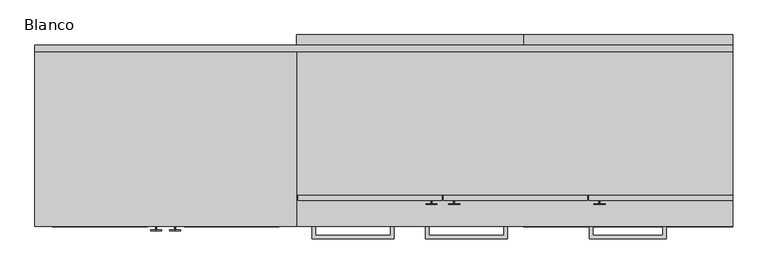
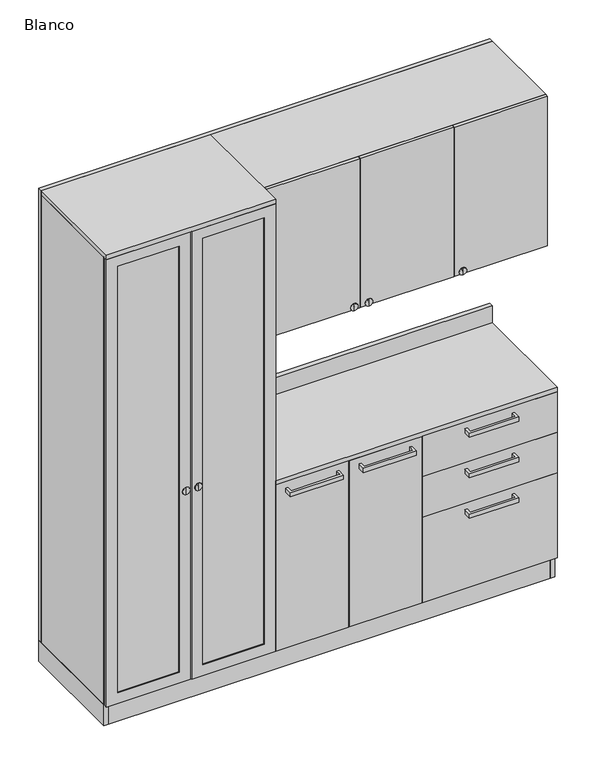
"""IFC4 building model written with IfcOpenShell, lengths in millimetres: furniture geometry, F06582_ES_Cocina-Modulable-Botanic.2019 : Blanco."""

from ifc_helpers import new_model, si_unit, point, frame, frame_2d, origin, origin_with_axes, place, context, project, spatial, polyline, circle_curve, trimmed, segment, composite_curve, outline, extrude, faceted_brep, source, transform, mapped, element, save
from ifc_brep_helpers import plane_surface, cylinder_surface, advanced_brep


def blanco_a21738ea(model_context):
    return source(origin(), model_context, "Body", "SolidModel", [
        advanced_brep(
        [(144.7599318, -220.0, 1001.3145393), (144.7599318, -220.0, 998.6854607), (144.7599318, -210.0, 998.6854607), (144.7599318, -210.0, 1001.3145393), (144.7599318, -210.0, 1000.0), (144.7599318, -221.9548714, 1000.0), (144.7599318, -221.9548714, 983.6854607), (144.7599318, -221.9548714, 1016.3145393), (144.7599318, -220.0, 983.6854607), (144.7599318, -220.0, 1016.3145393)],
        [
            (0, 1, circle_curve(frame((144.7599318, -220.0, 1000.0), z_axis=(0.0, 1.0, 0.0), x_axis=(0.0, 0.0, -1.0)), 1.3145393)),
            (1, 2),
            (2, 3, circle_curve(frame((144.7599318, -210.0, 1000.0), z_axis=(0.0, -1.0, 0.0), x_axis=(0.0, 0.0, -1.0)), 1.3145393)),
            (3, 0),
            (1, 0, circle_curve(frame((144.7599318, -220.0, 1000.0), z_axis=(0.0, 1.0, 0.0), x_axis=(0.0, 0.0, -1.0)), 1.3145393)),
            (3, 2, circle_curve(frame((144.7599318, -210.0, 1000.0), z_axis=(0.0, -1.0, 0.0), x_axis=(0.0, 0.0, -1.0)), 1.3145393)),
            (2, 4),
            (4, 3),
            (5, 6),
            (6, 7, circle_curve(frame((144.7599318, -221.9548714, 1000.0), z_axis=(0.0, -1.0, 0.0), x_axis=(0.0, 0.0, -1.0)), 16.3145393)),
            (7, 5),
            (7, 6, circle_curve(frame((144.7599318, -221.9548714, 1000.0), z_axis=(0.0, -1.0, 0.0), x_axis=(0.0, 0.0, -1.0)), 16.3145393)),
            (6, 8),
            (8, 9, circle_curve(frame((144.7599318, -220.0, 1000.0), z_axis=(0.0, -1.0, 0.0), x_axis=(0.0, 0.0, -1.0)), 16.3145393)),
            (9, 7),
            (9, 8, circle_curve(frame((144.7599318, -220.0, 1000.0), z_axis=(0.0, -1.0, 0.0), x_axis=(0.0, 0.0, -1.0)), 16.3145393)),
            (8, 1),
            (0, 9),
        ],
        [
            cylinder_surface(frame((144.7599318, -210.0, 1000.0), z_axis=(0.0, -1.0, 0.0), x_axis=(0.0, 0.0, -1.0)), 1.3145393),
            plane_surface(frame((144.7599318, -210.0, 1000.0), z_axis=(0.0, 1.0, 0.0), x_axis=(0.0, 0.0, -1.0))),
            plane_surface(frame((144.7599318, -221.9548714, 1000.0), z_axis=(0.0, -1.0, 0.0), x_axis=(0.0, 0.0, -1.0))),
            cylinder_surface(frame((144.7599318, -210.0, 1000.0), z_axis=(0.0, -1.0, 0.0), x_axis=(0.0, 0.0, -1.0)), 16.3145393),
            plane_surface(frame((144.7599318, -220.0, 1000.0), z_axis=(0.0, 1.0, 0.0), x_axis=(0.0, 0.0, -1.0))),
        ],
        [
            (0, [[1, 2, 3, 4]]),
            (0, [[5, -4, 6, -2]]),
            (1, [[-3, 7, 8]]),
            (1, [[-6, -8, -7]]),
            (2, [[9, 10, 11]]),
            (2, [[-11, 12, -9]]),
            (3, [[-10, 13, 14, 15]]),
            (3, [[-12, -15, 16, -13]]),
            (4, [[-14, 17, -1, 18]]),
            (4, [[-16, -18, -5, -17]]),
        ],
    ),
        advanced_brep(
        [(90.2400682, -220.0, 1001.3145393), (90.2400682, -220.0, 998.6854607), (90.2400682, -210.0, 998.6854607), (90.2400682, -210.0, 1001.3145393), (90.2400682, -210.0, 1000.0), (90.2400682, -221.9548714, 1000.0), (90.2400682, -221.9548714, 983.6854607), (90.2400682, -221.9548714, 1016.3145393), (90.2400682, -220.0, 983.6854607), (90.2400682, -220.0, 1016.3145393)],
        [
            (0, 1, circle_curve(frame((90.2400682, -220.0, 1000.0), z_axis=(0.0, 1.0, 0.0), x_axis=(0.0, 0.0, -1.0)), 1.3145393)),
            (1, 2),
            (2, 3, circle_curve(frame((90.2400682, -210.0, 1000.0), z_axis=(0.0, -1.0, 0.0), x_axis=(0.0, 0.0, -1.0)), 1.3145393)),
            (3, 0),
            (1, 0, circle_curve(frame((90.2400682, -220.0, 1000.0), z_axis=(0.0, 1.0, 0.0), x_axis=(0.0, 0.0, -1.0)), 1.3145393)),
            (3, 2, circle_curve(frame((90.2400682, -210.0, 1000.0), z_axis=(0.0, -1.0, 0.0), x_axis=(0.0, 0.0, -1.0)), 1.3145393)),
            (2, 4),
            (4, 3),
            (5, 6),
            (6, 7, circle_curve(frame((90.2400682, -221.9548714, 1000.0), z_axis=(0.0, -1.0, 0.0), x_axis=(0.0, 0.0, -1.0)), 16.3145393)),
            (7, 5),
            (7, 6, circle_curve(frame((90.2400682, -221.9548714, 1000.0), z_axis=(0.0, -1.0, 0.0), x_axis=(0.0, 0.0, -1.0)), 16.3145393)),
            (6, 8),
            (8, 9, circle_curve(frame((90.2400682, -220.0, 1000.0), z_axis=(0.0, -1.0, 0.0), x_axis=(0.0, 0.0, -1.0)), 16.3145393)),
            (9, 7),
            (9, 8, circle_curve(frame((90.2400682, -220.0, 1000.0), z_axis=(0.0, -1.0, 0.0), x_axis=(0.0, 0.0, -1.0)), 16.3145393)),
            (8, 1),
            (0, 9),
        ],
        [
            cylinder_surface(frame((90.2400682, -210.0, 1000.0), z_axis=(0.0, -1.0, 0.0), x_axis=(0.0, 0.0, -1.0)), 1.3145393),
            plane_surface(frame((90.2400682, -210.0, 1000.0), z_axis=(0.0, 1.0, 0.0), x_axis=(0.0, 0.0, -1.0))),
            plane_surface(frame((90.2400682, -221.9548714, 1000.0), z_axis=(0.0, -1.0, 0.0), x_axis=(0.0, 0.0, -1.0))),
            cylinder_surface(frame((90.2400682, -210.0, 1000.0), z_axis=(0.0, -1.0, 0.0), x_axis=(0.0, 0.0, -1.0)), 16.3145393),
            plane_surface(frame((90.2400682, -220.0, 1000.0), z_axis=(0.0, 1.0, 0.0), x_axis=(0.0, 0.0, -1.0))),
        ],
        [
            (0, [[1, 2, 3, 4]]),
            (0, [[5, -4, 6, -2]]),
            (1, [[-3, 7, 8]]),
            (1, [[-6, -8, -7]]),
            (2, [[9, 10, 11]]),
            (2, [[-11, 12, -9]]),
            (3, [[-10, 13, 14, 15]]),
            (3, [[-12, -15, 16, -13]]),
            (4, [[-14, 17, -1, 18]]),
            (4, [[-16, -18, -5, -17]]),
        ],
    ),
        advanced_brep(
        [(1360.8333333, -145.0, 1541.3145393), (1360.8333333, -145.0, 1538.6854607), (1360.8333333, -135.0, 1538.6854607), (1360.8333333, -135.0, 1541.3145393), (1360.8333333, -135.0, 1540.0), (1360.8333333, -146.9548714, 1540.0), (1360.8333333, -146.9548714, 1523.6854607), (1360.8333333, -146.9548714, 1556.3145393), (1360.8333333, -145.0, 1523.6854607), (1360.8333333, -145.0, 1556.3145393)],
        [
            (0, 1, circle_curve(frame((1360.8333333, -145.0, 1540.0), z_axis=(0.0, 1.0, 0.0), x_axis=(0.0, 0.0, -1.0)), 1.3145393)),
            (1, 2),
            (2, 3, circle_curve(frame((1360.8333333, -135.0, 1540.0), z_axis=(0.0, -1.0, 0.0), x_axis=(0.0, 0.0, -1.0)), 1.3145393)),
            (3, 0),
            (1, 0, circle_curve(frame((1360.8333333, -145.0, 1540.0), z_axis=(0.0, 1.0, 0.0), x_axis=(0.0, 0.0, -1.0)), 1.3145393)),
            (3, 2, circle_curve(frame((1360.8333333, -135.0, 1540.0), z_axis=(0.0, -1.0, 0.0), x_axis=(0.0, 0.0, -1.0)), 1.3145393)),
            (2, 4),
            (4, 3),
            (5, 6),
            (6, 7, circle_curve(frame((1360.8333333, -146.9548714, 1540.0), z_axis=(0.0, -1.0, 0.0), x_axis=(0.0, 0.0, -1.0)), 16.3145393)),
            (7, 5),
            (7, 6, circle_curve(frame((1360.8333333, -146.9548714, 1540.0), z_axis=(0.0, -1.0, 0.0), x_axis=(0.0, 0.0, -1.0)), 16.3145393)),
            (6, 8),
            (8, 9, circle_curve(frame((1360.8333333, -145.0, 1540.0), z_axis=(0.0, -1.0, 0.0), x_axis=(0.0, 0.0, -1.0)), 16.3145393)),
            (9, 7),
            (9, 8, circle_curve(frame((1360.8333333, -145.0, 1540.0), z_axis=(0.0, -1.0, 0.0), x_axis=(0.0, 0.0, -1.0)), 16.3145393)),
            (8, 1),
            (0, 9),
        ],
        [
            cylinder_surface(frame((1360.8333333, -135.0, 1540.0), z_axis=(0.0, -1.0, 0.0), x_axis=(0.0, 0.0, -1.0)), 1.3145393),
            plane_surface(frame((1360.8333333, -135.0, 1540.0), z_axis=(0.0, 1.0, 0.0), x_axis=(0.0, 0.0, -1.0))),
            plane_surface(frame((1360.8333333, -146.9548714, 1540.0), z_axis=(0.0, -1.0, 0.0), x_axis=(0.0, 0.0, -1.0))),
            cylinder_surface(frame((1360.8333333, -135.0, 1540.0), z_axis=(0.0, -1.0, 0.0), x_axis=(0.0, 0.0, -1.0)), 16.3145393),
            plane_surface(frame((1360.8333333, -145.0, 1540.0), z_axis=(0.0, 1.0, 0.0), x_axis=(0.0, 0.0, -1.0))),
        ],
        [
            (0, [[1, 2, 3, 4]]),
            (0, [[5, -4, 6, -2]]),
            (1, [[-3, 7, 8]]),
            (1, [[-6, -8, -7]]),
            (2, [[9, 10, 11]]),
            (2, [[-11, 12, -9]]),
            (3, [[-10, 13, 14, 15]]),
            (3, [[-12, -15, 16, -13]]),
            (4, [[-14, 17, -1, 18]]),
            (4, [[-16, -18, -5, -17]]),
        ],
    ),
        advanced_brep(
        [(944.1666667, -145.0, 1541.3145393), (944.1666667, -145.0, 1538.6854607), (944.1666667, -135.0, 1538.6854607), (944.1666667, -135.0, 1541.3145393), (944.1666667, -135.0, 1540.0), (944.1666667, -146.9548714, 1540.0), (944.1666667, -146.9548714, 1523.6854607), (944.1666667, -146.9548714, 1556.3145393), (944.1666667, -145.0, 1523.6854607), (944.1666667, -145.0, 1556.3145393)],
        [
            (0, 1, circle_curve(frame((944.1666667, -145.0, 1540.0), z_axis=(0.0, 1.0, 0.0), x_axis=(0.0, 0.0, -1.0)), 1.3145393)),
            (1, 2),
            (2, 3, circle_curve(frame((944.1666667, -135.0, 1540.0), z_axis=(0.0, -1.0, 0.0), x_axis=(0.0, 0.0, -1.0)), 1.3145393)),
            (3, 0),
            (1, 0, circle_curve(frame((944.1666667, -145.0, 1540.0), z_axis=(0.0, 1.0, 0.0), x_axis=(0.0, 0.0, -1.0)), 1.3145393)),
            (3, 2, circle_curve(frame((944.1666667, -135.0, 1540.0), z_axis=(0.0, -1.0, 0.0), x_axis=(0.0, 0.0, -1.0)), 1.3145393)),
            (2, 4),
            (4, 3),
            (5, 6),
            (6, 7, circle_curve(frame((944.1666667, -146.9548714, 1540.0), z_axis=(0.0, -1.0, 0.0), x_axis=(0.0, 0.0, -1.0)), 16.3145393)),
            (7, 5),
            (7, 6, circle_curve(frame((944.1666667, -146.9548714, 1540.0), z_axis=(0.0, -1.0, 0.0), x_axis=(0.0, 0.0, -1.0)), 16.3145393)),
            (6, 8),
            (8, 9, circle_curve(frame((944.1666667, -145.0, 1540.0), z_axis=(0.0, -1.0, 0.0), x_axis=(0.0, 0.0, -1.0)), 16.3145393)),
            (9, 7),
            (9, 8, circle_curve(frame((944.1666667, -145.0, 1540.0), z_axis=(0.0, -1.0, 0.0), x_axis=(0.0, 0.0, -1.0)), 16.3145393)),
            (8, 1),
            (0, 9),
        ],
        [
            cylinder_surface(frame((944.1666667, -135.0, 1540.0), z_axis=(0.0, -1.0, 0.0), x_axis=(0.0, 0.0, -1.0)), 1.3145393),
            plane_surface(frame((944.1666667, -135.0, 1540.0), z_axis=(0.0, 1.0, 0.0), x_axis=(0.0, 0.0, -1.0))),
            plane_surface(frame((944.1666667, -146.9548714, 1540.0), z_axis=(0.0, -1.0, 0.0), x_axis=(0.0, 0.0, -1.0))),
            cylinder_surface(frame((944.1666667, -135.0, 1540.0), z_axis=(0.0, -1.0, 0.0), x_axis=(0.0, 0.0, -1.0)), 16.3145393),
            plane_surface(frame((944.1666667, -145.0, 1540.0), z_axis=(0.0, 1.0, 0.0), x_axis=(0.0, 0.0, -1.0))),
        ],
        [
            (0, [[1, 2, 3, 4]]),
            (0, [[5, -4, 6, -2]]),
            (1, [[-3, 7, 8]]),
            (1, [[-6, -8, -7]]),
            (2, [[9, 10, 11]]),
            (2, [[-11, 12, -9]]),
            (3, [[-10, 13, 14, 15]]),
            (3, [[-12, -15, 16, -13]]),
            (4, [[-14, 17, -1, 18]]),
            (4, [[-16, -18, -5, -17]]),
        ],
    ),
        advanced_brep(
        [(879.1666667, -145.0, 1541.3145393), (879.1666667, -145.0, 1538.6854607), (879.1666667, -135.0, 1538.6854607), (879.1666667, -135.0, 1541.3145393), (879.1666667, -135.0, 1540.0), (879.1666667, -146.9548714, 1540.0), (879.1666667, -146.9548714, 1523.6854607), (879.1666667, -146.9548714, 1556.3145393), (879.1666667, -145.0, 1523.6854607), (879.1666667, -145.0, 1556.3145393)],
        [
            (0, 1, circle_curve(frame((879.1666667, -145.0, 1540.0), z_axis=(0.0, 1.0, 0.0), x_axis=(0.0, 0.0, -1.0)), 1.3145393)),
            (1, 2),
            (2, 3, circle_curve(frame((879.1666667, -135.0, 1540.0), z_axis=(0.0, -1.0, 0.0), x_axis=(0.0, 0.0, -1.0)), 1.3145393)),
            (3, 0),
            (1, 0, circle_curve(frame((879.1666667, -145.0, 1540.0), z_axis=(0.0, 1.0, 0.0), x_axis=(0.0, 0.0, -1.0)), 1.3145393)),
            (3, 2, circle_curve(frame((879.1666667, -135.0, 1540.0), z_axis=(0.0, -1.0, 0.0), x_axis=(0.0, 0.0, -1.0)), 1.3145393)),
            (2, 4),
            (4, 3),
            (5, 6),
            (6, 7, circle_curve(frame((879.1666667, -146.9548714, 1540.0), z_axis=(0.0, -1.0, 0.0), x_axis=(0.0, 0.0, -1.0)), 16.3145393)),
            (7, 5),
            (7, 6, circle_curve(frame((879.1666667, -146.9548714, 1540.0), z_axis=(0.0, -1.0, 0.0), x_axis=(0.0, 0.0, -1.0)), 16.3145393)),
            (6, 8),
            (8, 9, circle_curve(frame((879.1666667, -145.0, 1540.0), z_axis=(0.0, -1.0, 0.0), x_axis=(0.0, 0.0, -1.0)), 16.3145393)),
            (9, 7),
            (9, 8, circle_curve(frame((879.1666667, -145.0, 1540.0), z_axis=(0.0, -1.0, 0.0), x_axis=(0.0, 0.0, -1.0)), 16.3145393)),
            (8, 1),
            (0, 9),
        ],
        [
            cylinder_surface(frame((879.1666667, -135.0, 1540.0), z_axis=(0.0, -1.0, 0.0), x_axis=(0.0, 0.0, -1.0)), 1.3145393),
            plane_surface(frame((879.1666667, -135.0, 1540.0), z_axis=(0.0, 1.0, 0.0), x_axis=(0.0, 0.0, -1.0))),
            plane_surface(frame((879.1666667, -146.9548714, 1540.0), z_axis=(0.0, -1.0, 0.0), x_axis=(0.0, 0.0, -1.0))),
            cylinder_surface(frame((879.1666667, -135.0, 1540.0), z_axis=(0.0, -1.0, 0.0), x_axis=(0.0, 0.0, -1.0)), 16.3145393),
            plane_surface(frame((879.1666667, -145.0, 1540.0), z_axis=(0.0, 1.0, 0.0), x_axis=(0.0, 0.0, -1.0))),
        ],
        [
            (0, [[1, 2, 3, 4]]),
            (0, [[5, -4, 6, -2]]),
            (1, [[-3, 7, 8]]),
            (1, [[-6, -8, -7]]),
            (2, [[9, 10, 11]]),
            (2, [[-11, 12, -9]]),
            (3, [[-10, 13, 14, 15]]),
            (3, [[-12, -15, 16, -13]]),
            (4, [[-14, 17, -1, 18]]),
            (4, [[-16, -18, -5, -17]]),
        ],
    ),
        extrude(outline(polyline([(1342.5, -210.0), (1342.5, -235.0), (1542.5, -235.0), (1542.5, -210.0), (1552.5, -210.0), (1552.5, -245.0), (1332.5, -245.0), (1332.5, -210.0), (1342.5, -210.0)])), frame((0.0, 0.0, 640.0), z_axis=(0.0, 0.0, 1.0), x_axis=(1.0, 0.0, 0.0)), (0.0, 0.0, 1.0), 20.0),
        faceted_brep([(1698.5, 275.0, 660.0), (1186.5, 275.0, 660.0), (1186.5, 275.0, 535.0), (1698.5, 275.0, 535.0), (1713.5, 290.0, 520.0), (1171.5, 290.0, 520.0), (1171.5, 290.0, 535.0), (1171.5, 290.0, 660.0), (1713.5, 290.0, 660.0), (1713.5, 290.0, 535.0), (1171.5, -190.0, 520.0), (1171.5, -190.0, 660.0), (1713.5, -190.0, 520.0), (1713.5, -190.0, 660.0), (1698.5, -190.0, 660.0), (1186.5, -190.0, 660.0), (1698.5, -190.0, 535.0), (1186.5, -190.0, 535.0)], [[[0, 1, 2, 3]], [[4, 5, 6, 7, 8, 9]], [[5, 10, 11, 7, 6]], [[10, 5, 4, 12]], [[13, 12, 4, 9, 8]], [[14, 13, 8, 7, 11, 15, 1, 0]], [[14, 0, 3, 16]], [[10, 12, 13, 14, 16, 17, 15, 11]], [[1, 15, 17, 2]], [[17, 16, 3, 2]]]),
        extrude(outline(polyline([(1742.5, -210.0), (1142.5, -210.0), (1142.5, -190.0), (1742.5, -190.0), (1742.5, -210.0)])), frame((0.0, 0.0, 500.0), z_axis=(0.0, 0.0, 1.0), x_axis=(1.0, 0.0, 0.0)), (0.0, 0.0, 1.0), 190.0),
        extrude(outline(polyline([(506.0, 1713.5), (506.0, 1721.8973782), (507.0, 1721.8973782), (507.0, 1714.5), (523.0, 1714.5), (523.0, 1722.5), (524.0, 1722.5), (524.0, 1713.5), (506.0, 1713.5)])), frame((0.0, -190.0, 0.0), z_axis=(0.0, 1.0, 0.0), x_axis=(0.0, 0.0, 1.0)), (0.0, 0.0, 1.0), 480.0),
        extrude(outline(polyline([(526.0, 1171.5), (544.0, 1171.5), (544.0, 1163.1026218), (543.0, 1163.1026218), (543.0, 1170.5), (527.0, 1170.5), (527.0, 1162.5), (526.0, 1162.5), (526.0, 1171.5)])), frame((0.0, -190.0, 0.0), z_axis=(0.0, 1.0, 0.0), x_axis=(0.0, 0.0, 1.0)), (0.0, 0.0, 1.0), 480.0),
        extrude(outline(composite_curve([segment(trimmed(circle_curve(frame_2d((505.0, 1718.5)), 5.0), [point((500.0, 1718.5))], [point((505.0, 1723.5))], False, "CARTESIAN"), True, "CONTINUOUS"), segment(polyline([(505.0, 1723.5), (525.0, 1723.5)]), True, "CONTINUOUS"), segment(trimmed(circle_curve(frame_2d((525.0, 1718.5)), 5.0), [point((525.0, 1723.5))], [point((530.0, 1718.5))], False, "CARTESIAN"), True, "CONTINUOUS"), segment(polyline([(530.0, 1718.5), (530.0, 1713.5), (529.0, 1713.5), (529.0, 1718.5)]), True, "CONTINUOUS"), segment(trimmed(circle_curve(frame_2d((525.0, 1718.5)), 4.0), [point((529.0, 1718.5))], [point((525.0, 1722.5))], True, "CARTESIAN"), True, "CONTINUOUS"), segment(polyline([(525.0, 1722.5), (505.0, 1722.5)]), True, "CONTINUOUS"), segment(trimmed(circle_curve(frame_2d((505.0, 1718.5)), 4.0), [point((505.0, 1722.5))], [point((501.0, 1718.5))], True, "CARTESIAN"), True, "CONTINUOUS"), segment(polyline([(501.0, 1718.5), (501.0, 1713.5), (500.0, 1713.5), (500.0, 1718.5)]), True, "CONTINUOUS")], self_intersect=False)), frame((0.0, -40.0, 0.0), z_axis=(0.0, 1.0, 0.0), x_axis=(0.0, 0.0, 1.0)), (0.0, 0.0, 1.0), 330.0),
        extrude(outline(composite_curve([segment(polyline([(520.0, 1166.5), (520.0, 1171.5), (521.0, 1171.5), (521.0, 1166.5)]), True, "CONTINUOUS"), segment(trimmed(circle_curve(frame_2d((525.0, 1166.5)), 4.0), [point((521.0, 1166.5))], [point((525.0, 1162.5))], True, "CARTESIAN"), True, "CONTINUOUS"), segment(polyline([(525.0, 1162.5), (545.0, 1162.5)]), True, "CONTINUOUS"), segment(trimmed(circle_curve(frame_2d((545.0, 1166.5)), 4.0), [point((545.0, 1162.5))], [point((549.0, 1166.5))], True, "CARTESIAN"), True, "CONTINUOUS"), segment(polyline([(549.0, 1166.5), (549.0, 1171.5), (550.0, 1171.5), (550.0, 1166.5)]), True, "CONTINUOUS"), segment(trimmed(circle_curve(frame_2d((545.0, 1166.5)), 5.0), [point((550.0, 1166.5))], [point((545.0, 1161.5))], False, "CARTESIAN"), True, "CONTINUOUS"), segment(polyline([(545.0, 1161.5), (525.0, 1161.5)]), True, "CONTINUOUS"), segment(trimmed(circle_curve(frame_2d((525.0, 1166.5)), 5.0), [point((525.0, 1161.5))], [point((520.0, 1166.5))], False, "CARTESIAN"), True, "CONTINUOUS")], self_intersect=False)), frame((0.0, -40.0, 0.0), z_axis=(0.0, 1.0, 0.0), x_axis=(0.0, 0.0, 1.0)), (0.0, 0.0, 1.0), 330.0),
        extrude(outline(polyline([(1342.5, -210.0), (1342.5, -235.0), (1542.5, -235.0), (1542.5, -210.0), (1552.5, -210.0), (1552.5, -245.0), (1332.5, -245.0), (1332.5, -210.0), (1342.5, -210.0)])), frame((0.0, 0.0, 830.0), z_axis=(0.0, 0.0, 1.0), x_axis=(1.0, 0.0, 0.0)), (0.0, 0.0, 1.0), 20.0),
        faceted_brep([(1698.5, 275.0, 850.0), (1186.5, 275.0, 850.0), (1186.5, 275.0, 725.0), (1698.5, 275.0, 725.0), (1713.5, 290.0, 710.0), (1171.5, 290.0, 710.0), (1171.5, 290.0, 725.0), (1171.5, 290.0, 850.0), (1713.5, 290.0, 850.0), (1713.5, 290.0, 725.0), (1171.5, -190.0, 710.0), (1171.5, -190.0, 850.0), (1713.5, -190.0, 710.0), (1713.5, -190.0, 850.0), (1698.5, -190.0, 850.0), (1186.5, -190.0, 850.0), (1698.5, -190.0, 725.0), (1186.5, -190.0, 725.0)], [[[0, 1, 2, 3]], [[4, 5, 6, 7, 8, 9]], [[5, 10, 11, 7, 6]], [[10, 5, 4, 12]], [[13, 12, 4, 9, 8]], [[14, 13, 8, 7, 11, 15, 1, 0]], [[14, 0, 3, 16]], [[10, 12, 13, 14, 16, 17, 15, 11]], [[1, 15, 17, 2]], [[17, 16, 3, 2]]]),
        extrude(outline(polyline([(1742.5, -210.0), (1142.5, -210.0), (1142.5, -190.0), (1742.5, -190.0), (1742.5, -210.0)])), frame((0.0, 0.0, 690.0), z_axis=(0.0, 0.0, 1.0), x_axis=(1.0, 0.0, 0.0)), (0.0, 0.0, 1.0), 190.0),
        extrude(outline(polyline([(696.0, 1713.5), (696.0, 1721.8973782), (697.0, 1721.8973782), (697.0, 1714.5), (713.0, 1714.5), (713.0, 1722.5), (714.0, 1722.5), (714.0, 1713.5), (696.0, 1713.5)])), frame((0.0, -190.0, 0.0), z_axis=(0.0, 1.0, 0.0), x_axis=(0.0, 0.0, 1.0)), (0.0, 0.0, 1.0), 480.0),
        extrude(outline(polyline([(716.0, 1171.5), (734.0, 1171.5), (734.0, 1163.1026218), (733.0, 1163.1026218), (733.0, 1170.5), (717.0, 1170.5), (717.0, 1162.5), (716.0, 1162.5), (716.0, 1171.5)])), frame((0.0, -190.0, 0.0), z_axis=(0.0, 1.0, 0.0), x_axis=(0.0, 0.0, 1.0)), (0.0, 0.0, 1.0), 480.0),
        extrude(outline(composite_curve([segment(trimmed(circle_curve(frame_2d((695.0, 1718.5)), 5.0), [point((690.0, 1718.5))], [point((695.0, 1723.5))], False, "CARTESIAN"), True, "CONTINUOUS"), segment(polyline([(695.0, 1723.5), (715.0, 1723.5)]), True, "CONTINUOUS"), segment(trimmed(circle_curve(frame_2d((715.0, 1718.5)), 5.0), [point((715.0, 1723.5))], [point((720.0, 1718.5))], False, "CARTESIAN"), True, "CONTINUOUS"), segment(polyline([(720.0, 1718.5), (720.0, 1713.5), (719.0, 1713.5), (719.0, 1718.5)]), True, "CONTINUOUS"), segment(trimmed(circle_curve(frame_2d((715.0, 1718.5)), 4.0), [point((719.0, 1718.5))], [point((715.0, 1722.5))], True, "CARTESIAN"), True, "CONTINUOUS"), segment(polyline([(715.0, 1722.5), (695.0, 1722.5)]), True, "CONTINUOUS"), segment(trimmed(circle_curve(frame_2d((695.0, 1718.5)), 4.0), [point((695.0, 1722.5))], [point((691.0, 1718.5))], True, "CARTESIAN"), True, "CONTINUOUS"), segment(polyline([(691.0, 1718.5), (691.0, 1713.5), (690.0, 1713.5), (690.0, 1718.5)]), True, "CONTINUOUS")], self_intersect=False)), frame((0.0, -40.0, 0.0), z_axis=(0.0, 1.0, 0.0), x_axis=(0.0, 0.0, 1.0)), (0.0, 0.0, 1.0), 330.0),
        extrude(outline(composite_curve([segment(polyline([(710.0, 1166.5), (710.0, 1171.5), (711.0, 1171.5), (711.0, 1166.5)]), True, "CONTINUOUS"), segment(trimmed(circle_curve(frame_2d((715.0, 1166.5)), 4.0), [point((711.0, 1166.5))], [point((715.0, 1162.5))], True, "CARTESIAN"), True, "CONTINUOUS"), segment(polyline([(715.0, 1162.5), (735.0, 1162.5)]), True, "CONTINUOUS"), segment(trimmed(circle_curve(frame_2d((735.0, 1166.5)), 4.0), [point((735.0, 1162.5))], [point((739.0, 1166.5))], True, "CARTESIAN"), True, "CONTINUOUS"), segment(polyline([(739.0, 1166.5), (739.0, 1171.5), (740.0, 1171.5), (740.0, 1166.5)]), True, "CONTINUOUS"), segment(trimmed(circle_curve(frame_2d((735.0, 1166.5)), 5.0), [point((740.0, 1166.5))], [point((735.0, 1161.5))], False, "CARTESIAN"), True, "CONTINUOUS"), segment(polyline([(735.0, 1161.5), (715.0, 1161.5)]), True, "CONTINUOUS"), segment(trimmed(circle_curve(frame_2d((715.0, 1166.5)), 5.0), [point((715.0, 1161.5))], [point((710.0, 1166.5))], False, "CARTESIAN"), True, "CONTINUOUS")], self_intersect=False)), frame((0.0, -40.0, 0.0), z_axis=(0.0, 1.0, 0.0), x_axis=(0.0, 0.0, 1.0)), (0.0, 0.0, 1.0), 330.0),
        extrude(outline(polyline([(1342.5, -210.0), (1342.5, -235.0), (1542.5, -235.0), (1542.5, -210.0), (1552.5, -210.0), (1552.5, -245.0), (1332.5, -245.0), (1332.5, -210.0), (1342.5, -210.0)])), frame((0.0, 0.0, 450.0), z_axis=(0.0, 0.0, 1.0), x_axis=(1.0, 0.0, 0.0)), (0.0, 0.0, 1.0), 20.0),
        faceted_brep([(1698.5, 275.0, 470.0), (1186.5, 275.0, 470.0), (1186.5, 275.0, 135.0), (1698.5, 275.0, 135.0), (1713.5, 290.0, 120.0), (1171.5, 290.0, 120.0), (1171.5, 290.0, 135.0), (1171.5, 290.0, 470.0), (1713.5, 290.0, 470.0), (1713.5, 290.0, 135.0), (1171.5, -190.0, 120.0), (1171.5, -190.0, 470.0), (1713.5, -190.0, 120.0), (1713.5, -190.0, 470.0), (1698.5, -190.0, 470.0), (1186.5, -190.0, 470.0), (1698.5, -190.0, 135.0), (1186.5, -190.0, 135.0)], [[[0, 1, 2, 3]], [[4, 5, 6, 7, 8, 9]], [[5, 10, 11, 7, 6]], [[10, 5, 4, 12]], [[13, 12, 4, 9, 8]], [[14, 13, 8, 7, 11, 15, 1, 0]], [[14, 0, 3, 16]], [[10, 12, 13, 14, 16, 17, 15, 11]], [[1, 15, 17, 2]], [[17, 16, 3, 2]]]),
        extrude(outline(polyline([(1742.5, -210.0), (1142.5, -210.0), (1142.5, -190.0), (1742.5, -190.0), (1742.5, -210.0)])), frame((0.0, 0.0, 100.0), z_axis=(0.0, 0.0, 1.0), x_axis=(1.0, 0.0, 0.0)), (0.0, 0.0, 1.0), 400.0),
        extrude(outline(polyline([(106.0, 1713.5), (106.0, 1721.8973782), (107.0, 1721.8973782), (107.0, 1714.5), (123.0, 1714.5), (123.0, 1722.5), (124.0, 1722.5), (124.0, 1713.5), (106.0, 1713.5)])), frame((0.0, -190.0, 0.0), z_axis=(0.0, 1.0, 0.0), x_axis=(0.0, 0.0, 1.0)), (0.0, 0.0, 1.0), 480.0),
        extrude(outline(polyline([(126.0, 1171.5), (144.0, 1171.5), (144.0, 1163.1026218), (143.0, 1163.1026218), (143.0, 1170.5), (127.0, 1170.5), (127.0, 1162.5), (126.0, 1162.5), (126.0, 1171.5)])), frame((0.0, -190.0, 0.0), z_axis=(0.0, 1.0, 0.0), x_axis=(0.0, 0.0, 1.0)), (0.0, 0.0, 1.0), 480.0),
        extrude(outline(composite_curve([segment(trimmed(circle_curve(frame_2d((105.0, 1718.5)), 5.0), [point((100.0, 1718.5))], [point((105.0, 1723.5))], False, "CARTESIAN"), True, "CONTINUOUS"), segment(polyline([(105.0, 1723.5), (125.0, 1723.5)]), True, "CONTINUOUS"), segment(trimmed(circle_curve(frame_2d((125.0, 1718.5)), 5.0), [point((125.0, 1723.5))], [point((130.0, 1718.5))], False, "CARTESIAN"), True, "CONTINUOUS"), segment(polyline([(130.0, 1718.5), (130.0, 1713.5), (129.0, 1713.5), (129.0, 1718.5)]), True, "CONTINUOUS"), segment(trimmed(circle_curve(frame_2d((125.0, 1718.5)), 4.0), [point((129.0, 1718.5))], [point((125.0, 1722.5))], True, "CARTESIAN"), True, "CONTINUOUS"), segment(polyline([(125.0, 1722.5), (105.0, 1722.5)]), True, "CONTINUOUS"), segment(trimmed(circle_curve(frame_2d((105.0, 1718.5)), 4.0), [point((105.0, 1722.5))], [point((101.0, 1718.5))], True, "CARTESIAN"), True, "CONTINUOUS"), segment(polyline([(101.0, 1718.5), (101.0, 1713.5), (100.0, 1713.5), (100.0, 1718.5)]), True, "CONTINUOUS")], self_intersect=False)), frame((0.0, -40.0, 0.0), z_axis=(0.0, 1.0, 0.0), x_axis=(0.0, 0.0, 1.0)), (0.0, 0.0, 1.0), 330.0),
        extrude(outline(composite_curve([segment(polyline([(120.0, 1166.5), (120.0, 1171.5), (121.0, 1171.5), (121.0, 1166.5)]), True, "CONTINUOUS"), segment(trimmed(circle_curve(frame_2d((125.0, 1166.5)), 4.0), [point((121.0, 1166.5))], [point((125.0, 1162.5))], True, "CARTESIAN"), True, "CONTINUOUS"), segment(polyline([(125.0, 1162.5), (145.0, 1162.5)]), True, "CONTINUOUS"), segment(trimmed(circle_curve(frame_2d((145.0, 1166.5)), 4.0), [point((145.0, 1162.5))], [point((149.0, 1166.5))], True, "CARTESIAN"), True, "CONTINUOUS"), segment(polyline([(149.0, 1166.5), (149.0, 1171.5), (150.0, 1171.5), (150.0, 1166.5)]), True, "CONTINUOUS"), segment(trimmed(circle_curve(frame_2d((145.0, 1166.5)), 5.0), [point((150.0, 1166.5))], [point((145.0, 1161.5))], False, "CARTESIAN"), True, "CONTINUOUS"), segment(polyline([(145.0, 1161.5), (125.0, 1161.5)]), True, "CONTINUOUS"), segment(trimmed(circle_curve(frame_2d((125.0, 1166.5)), 5.0), [point((125.0, 1161.5))], [point((120.0, 1166.5))], False, "CARTESIAN"), True, "CONTINUOUS")], self_intersect=False)), frame((0.0, -40.0, 0.0), z_axis=(0.0, 1.0, 0.0), x_axis=(0.0, 0.0, 1.0)), (0.0, 0.0, 1.0), 330.0),
        extrude(outline(polyline([(-237.5, 310.0), (-237.5, -190.0), (-257.5, -190.0), (-257.5, 310.0), (-237.5, 310.0)])), origin_with_axes(), (0.0, 0.0, 1.0), 100.0),
        extrude(outline(polyline([(1722.5, -190.0), (1722.5, 310.0), (1742.5, 310.0), (1742.5, -190.0), (1722.5, -190.0)])), origin_with_axes(), (0.0, 0.0, 1.0), 100.0),
        extrude(outline(polyline([(1722.5, 310.0), (1722.5, 290.0), (-237.5, 290.0), (-237.5, 310.0), (1722.5, 310.0)])), origin_with_axes(), (0.0, 0.0, 1.0), 100.0),
        extrude(outline(polyline([(1722.5, -190.0), (-237.5, -190.0), (-237.5, -170.0), (1722.5, -170.0), (1722.5, -190.0)])), origin_with_axes(), (0.0, 0.0, 1.0), 100.0),
        extrude(outline(polyline([(1722.5, 290.0), (1742.5, 290.0), (1742.5, -190.0), (1722.5, -190.0), (1722.5, 290.0)])), frame((0.0, 0.0, 100.0), z_axis=(0.0, 0.0, 1.0), x_axis=(1.0, 0.0, 0.0)), (0.0, 0.0, 1.0), 780.0),
        extrude(outline(polyline([(1142.5, 290.0), (1162.5, 290.0), (1162.5, -190.0), (1142.5, -190.0), (1142.5, 290.0)])), frame((0.0, 0.0, 100.0), z_axis=(0.0, 0.0, 1.0), x_axis=(1.0, 0.0, 0.0)), (0.0, 0.0, 1.0), 780.0),
        extrude(outline(polyline([(-257.5, 290.0), (492.5, 290.0), (492.5, -210.0), (-257.5, -210.0), (-257.5, 290.0)])), frame((0.0, 0.0, 2200.0), z_axis=(0.0, 0.0, 1.0), x_axis=(1.0, 0.0, 0.0)), (0.0, 0.0, 1.0), 20.0),
        extrude(outline(polyline([(492.5, 290.0), (1742.5, 290.0), (1742.5, -120.0), (492.5, -120.0), (492.5, 290.0)])), frame((0.0, 0.0, 2200.0), z_axis=(0.0, 0.0, 1.0), x_axis=(1.0, 0.0, 0.0)), (0.0, 0.0, 1.0), 20.0),
        extrude(outline(polyline([(-257.5, 290.0), (-237.5, 290.0), (-237.5, -190.0), (-257.5, -190.0), (-257.5, 290.0)])), frame((0.0, 0.0, 100.0), z_axis=(0.0, 0.0, 1.0), x_axis=(1.0, 0.0, 0.0)), (0.0, 0.0, 1.0), 2100.0),
        extrude(outline(polyline([(472.5, 290.0), (492.5, 290.0), (492.5, -190.0), (472.5, -190.0), (472.5, 290.0)])), frame((0.0, 0.0, 100.0), z_axis=(0.0, 0.0, 1.0), x_axis=(1.0, 0.0, 0.0)), (0.0, 0.0, 1.0), 2100.0),
        extrude(outline(polyline([(700.0, 472.5), (700.0, -237.5), (500.0, -237.5), (500.0, 472.5), (700.0, 472.5)]), holes=[polyline([(690.0, -105.5), (510.0, -105.5), (510.0, -227.5), (690.0, -227.5), (690.0, -105.5)]), polyline([(690.0, 36.5), (510.0, 36.5), (510.0, -95.5), (690.0, -95.5), (690.0, 36.5)]), polyline([(690.0, 178.5), (510.0, 178.5), (510.0, 46.5), (690.0, 46.5), (690.0, 178.5)]), polyline([(690.0, 320.5), (510.0, 320.5), (510.0, 188.5), (690.0, 188.5), (690.0, 320.5)]), polyline([(690.0, 462.5), (510.0, 462.5), (510.0, 330.5), (690.0, 330.5), (690.0, 462.5)])]), frame((0.0, -190.0, 0.0), z_axis=(0.0, 1.0, 0.0), x_axis=(0.0, 0.0, 1.0)), (0.0, 0.0, 1.0), 480.0),
        extrude(outline(polyline([(880.0, 472.5), (880.0, -237.5), (700.0, -237.5), (700.0, 472.5), (880.0, 472.5)]), holes=[polyline([(875.0, 467.5), (705.0, 467.5), (705.0, -232.5), (875.0, -232.5), (875.0, 467.5)])]), frame((0.0, -190.0, 0.0), z_axis=(0.0, 1.0, 0.0), x_axis=(0.0, 0.0, 1.0)), (0.0, 0.0, 1.0), 480.0),
        extrude(outline(polyline([(472.5, -190.0), (-237.5, -190.0), (-237.5, 134.5171493), (472.5, 134.5171493), (472.5, -190.0)])), frame((0.0, 0.0, 1850.0), z_axis=(0.0, 0.0, 1.0), x_axis=(1.0, 0.0, 0.0)), (0.0, 0.0, 1.0), 20.0),
        extrude(outline(polyline([(472.5, -190.0), (-237.5, -190.0), (-237.5, 134.5171493), (472.5, 134.5171493), (472.5, -190.0)])), frame((0.0, 0.0, 1520.0), z_axis=(0.0, 0.0, 1.0), x_axis=(1.0, 0.0, 0.0)), (0.0, 0.0, 1.0), 20.0),
        extrude(outline(polyline([(472.5, -190.0), (-237.5, -190.0), (-237.5, 134.5171493), (472.5, 134.5171493), (472.5, -190.0)])), frame((0.0, 0.0, 1190.0), z_axis=(0.0, 0.0, 1.0), x_axis=(1.0, 0.0, 0.0)), (0.0, 0.0, 1.0), 20.0),
        extrude(outline(polyline([(1142.5, -120.0), (492.5, -120.0), (492.5, 340.0), (1142.5, 340.0), (1142.5, -120.0)])), frame((0.0, 0.0, 1850.0), z_axis=(0.0, 0.0, 1.0), x_axis=(1.0, 0.0, 0.0)), (0.0, 0.0, 1.0), 20.0),
        extrude(outline(polyline([(1742.5, -120.0), (492.5, -120.0), (492.5, 340.0), (1742.5, 340.0), (1742.5, -120.0)])), frame((0.0, 0.0, 1520.0), z_axis=(0.0, 0.0, 1.0), x_axis=(1.0, 0.0, 0.0)), (0.0, 0.0, 1.0), 20.0),
        extrude(outline(polyline([(1742.5, -210.0), (492.5, -210.0), (492.5, 290.0), (1742.5, 290.0), (1742.5, -210.0)])), frame((0.0, 0.0, 880.0), z_axis=(0.0, 0.0, 1.0), x_axis=(1.0, 0.0, 0.0)), (0.0, 0.0, 1.0), 20.0),
        extrude(outline(polyline([(2220.0, -257.5), (100.0, -257.5), (100.0, 1742.5), (980.0, 1742.5), (980.0, 492.5), (1520.0, 492.5), (1520.0, 1742.5), (2220.0, 1742.5), (2220.0, -257.5)])), frame((0.0, 290.0, 0.0), z_axis=(0.0, 1.0, 0.0), x_axis=(0.0, 0.0, 1.0)), (0.0, 0.0, 1.0), 20.0),
        extrude(outline(polyline([(1142.5, -120.0), (492.5, -120.0), (492.5, 290.0), (1142.5, 290.0), (1142.5, -120.0)])), frame((0.0, 0.0, 480.0), z_axis=(0.0, 0.0, 1.0), x_axis=(1.0, 0.0, 0.0)), (0.0, 0.0, 1.0), 20.0),
        extrude(outline(polyline([(2200.0, 115.2400682), (2200.0, -257.5), (100.0, -257.5), (100.0, 115.2400682), (2200.0, 115.2400682)]), holes=[polyline([(150.0, -207.5), (2150.0, -207.5), (2150.0, 65.2400682), (150.0, 65.2400682), (150.0, -207.5)])]), frame((0.0, -210.0, 0.0), z_axis=(0.0, 1.0, 0.0), x_axis=(0.0, 0.0, 1.0)), (0.0, 0.0, 1.0), 15.0),
        extrude(outline(polyline([(100.0, 119.7599318), (100.0, 492.5), (2200.0, 492.5), (2200.0, 119.7599318), (100.0, 119.7599318)]), holes=[polyline([(150.0, 169.7599318), (2150.0, 169.7599318), (2150.0, 442.5), (150.0, 442.5), (150.0, 169.7599318)])]), frame((0.0, -210.0, 0.0), z_axis=(0.0, 1.0, 0.0), x_axis=(0.0, 0.0, 1.0)), (0.0, 0.0, 1.0), 15.0),
        extrude(outline(polyline([(914.1666667, -120.0), (1325.8333333, -120.0), (1325.8333333, -135.0), (914.1666667, -135.0), (914.1666667, -120.0)])), frame((0.0, 0.0, 1520.0), z_axis=(0.0, 0.0, 1.0), x_axis=(1.0, 0.0, 0.0)), (0.0, 0.0, 1.0), 700.0),
        extrude(outline(polyline([(497.5, -120.0), (909.1666667, -120.0), (909.1666667, -135.0), (497.5, -135.0), (497.5, -120.0)])), frame((0.0, 0.0, 1520.0), z_axis=(0.0, 0.0, 1.0), x_axis=(1.0, 0.0, 0.0)), (0.0, 0.0, 1.0), 700.0),
        extrude(outline(polyline([(1330.8333333, -120.0), (1742.5, -120.0), (1742.5, -135.0), (1330.8333333, -135.0), (1330.8333333, -120.0)])), frame((0.0, 0.0, 1520.0), z_axis=(0.0, 0.0, 1.0), x_axis=(1.0, 0.0, 0.0)), (0.0, 0.0, 1.0), 700.0),
        extrude(outline(polyline([(492.5, -190.0), (816.25, -190.0), (816.25, -210.0), (492.5, -210.0), (492.5, -190.0)])), frame((0.0, 0.0, 100.0), z_axis=(0.0, 0.0, 1.0), x_axis=(1.0, 0.0, 0.0)), (0.0, 0.0, 1.0), 780.0),
        extrude(outline(polyline([(818.75, -190.0), (1142.5, -190.0), (1142.5, -210.0), (818.75, -210.0), (818.75, -190.0)])), frame((0.0, 0.0, 100.0), z_axis=(0.0, 0.0, 1.0), x_axis=(1.0, 0.0, 0.0)), (0.0, 0.0, 1.0), 780.0),
        extrude(outline(polyline([(1742.5, -120.0), (1722.5, -120.0), (1722.5, 290.0), (1742.5, 290.0), (1742.5, -120.0)])), frame((0.0, 0.0, 1540.0), z_axis=(0.0, 0.0, 1.0), x_axis=(1.0, 0.0, 0.0)), (0.0, 0.0, 1.0), 660.0),
        extrude(outline(polyline([(1162.5, -120.0), (1142.5, -120.0), (1142.5, 290.0), (1162.5, 290.0), (1162.5, -120.0)])), frame((0.0, 0.0, 1540.0), z_axis=(0.0, 0.0, 1.0), x_axis=(1.0, 0.0, 0.0)), (0.0, 0.0, 1.0), 660.0),
        extrude(outline(polyline([(1097.5, -245.0), (862.5, -245.0), (862.5, -210.0), (872.5, -210.0), (872.5, -235.0), (1087.5, -235.0), (1087.5, -210.0), (1097.5, -210.0), (1097.5, -245.0)])), frame((0.0, 0.0, 830.0), z_axis=(0.0, 0.0, 1.0), x_axis=(1.0, 0.0, 0.0)), (0.0, 0.0, 1.0), 20.0),
        extrude(outline(polyline([(537.5, -245.0), (537.5, -210.0), (547.5, -210.0), (547.5, -235.0), (762.5, -235.0), (762.5, -210.0), (772.5, -210.0), (772.5, -245.0), (537.5, -245.0)])), frame((0.0, 0.0, 830.0), z_axis=(0.0, 0.0, 1.0), x_axis=(1.0, 0.0, 0.0)), (0.0, 0.0, 1.0), 20.0),
        extrude(outline(polyline([(1722.5, 290.0), (1722.5, -190.0), (-237.5, -190.0), (-237.5, 290.0), (1722.5, 290.0)])), frame((0.0, 0.0, 80.0), z_axis=(0.0, 0.0, 1.0), x_axis=(1.0, 0.0, 0.0)), (0.0, 0.0, 1.0), 20.0),
        extrude(outline(polyline([(65.2400682, -200.0), (65.2400682, -205.0), (-207.5, -205.0), (-207.5, -200.0), (65.2400682, -200.0)])), frame((0.0, 0.0, 150.0), z_axis=(0.0, 0.0, 1.0), x_axis=(1.0, 0.0, 0.0)), (0.0, 0.0, 1.0), 2000.0),
        extrude(outline(polyline([(442.5, -200.0), (442.5, -205.0), (169.7599318, -205.0), (169.7599318, -200.0), (442.5, -200.0)])), frame((0.0, 0.0, 150.0), z_axis=(0.0, 0.0, 1.0), x_axis=(1.0, 0.0, 0.0)), (0.0, 0.0, 1.0), 2000.0),
    ])


if __name__ == "__main__":
    model = new_model("IFC4")
    model_context = context("Model", 3, world=origin())
    ifc_project = project(units=[si_unit("LENGTHUNIT", "METRE", prefix="MILLI")], contexts=[model_context])
    site = spatial("IfcSite", under=ifc_project)
    building = spatial("IfcBuilding", under=site)
    placement = place(None, origin())
    blanco_shape = blanco_a21738ea(model_context)
    element("IfcFurniture", 1, ObjectType="F06582_ES_Cocina-Modulable-Botanic.2019 : Blanco", at=placement, inside=building, context=model_context, shape_type="MappedRepresentation", body=[
        mapped(blanco_shape, transform((0.0, 0.0, 0.0), x_axis=(1.0, 0.0, 0.0), y_axis=(0.0, 1.0, 0.0), z_axis=(0.0, 0.0, 1.0))),
    ])
    save(model, "model.ifc")
